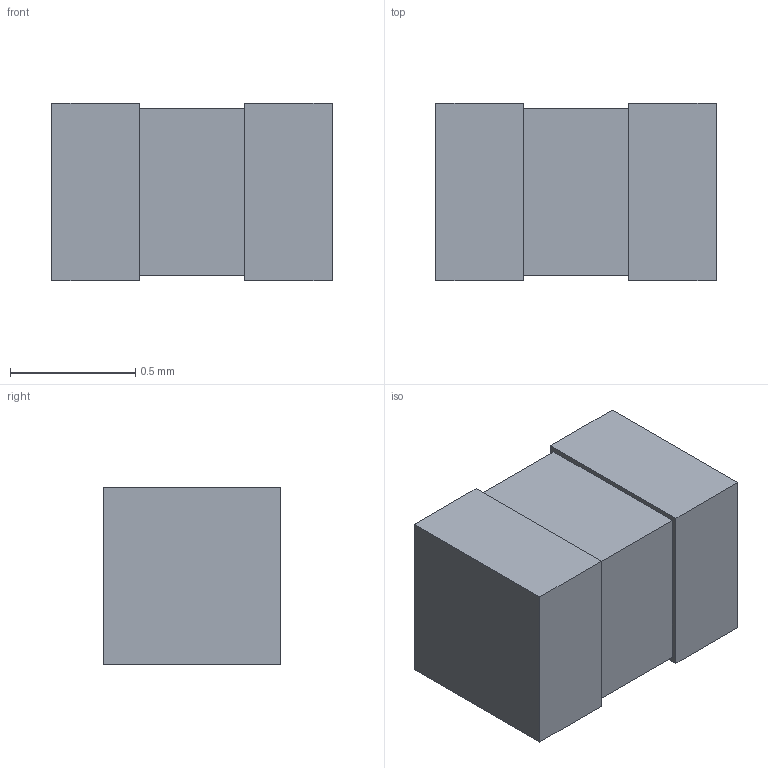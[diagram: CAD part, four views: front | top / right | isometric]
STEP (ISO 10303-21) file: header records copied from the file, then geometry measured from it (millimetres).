
FILE_DESCRIPTION (( 'STEP AP214' ), '1' );
FILE_NAME ('NTHS0402 V2.STEP', '2023-04-13T08:18:23', ( '' ), ( '' ), 'SwSTEP 2.0', 'SolidWorks 2022', '' );
FILE_SCHEMA (( 'AUTOMOTIVE_DESIGN' ));
Length unit declared in the file: millimetre
Products named in the file (1): NTHS0402 V2
Bounding box: 1.12 x 0.71 x 0.71 mm (x, y, z)
Volume: 0.5 mm3; surface area: 4.2 mm2
Topology: 1 solids, 1 shells, 16 faces, 36 edges, 24 vertices
Faces by surface type: plane 16
Entity records: 474 total; most frequent: CARTESIAN_POINT 77, ORIENTED_EDGE 72, DIRECTION 70, EDGE_CURVE 36, VECTOR 36, LINE 36, VERTEX_POINT 24, EDGE_LOOP 18
